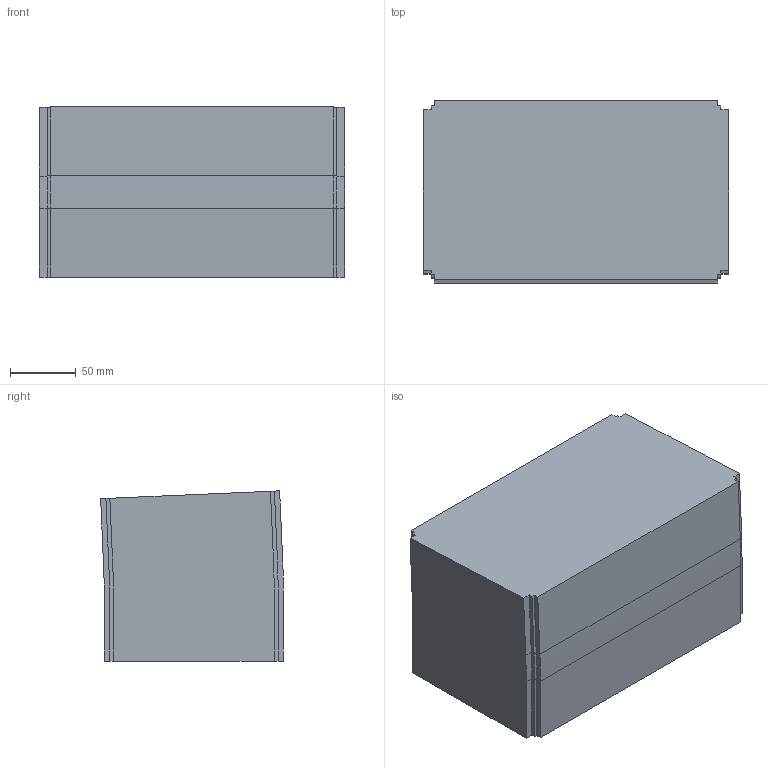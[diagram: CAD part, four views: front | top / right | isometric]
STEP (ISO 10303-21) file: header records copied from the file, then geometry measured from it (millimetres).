
FILE_DESCRIPTION (( 'STEP AP214' ), '1' );
FILE_NAME ('FS-MTC2-150-INOX verticaalbocht.230 2,5°.STEP', '2017-02-08T12:41:50', ( '' ), ( '' ), 'SwSTEP 2.0', 'SolidWorks 2016', '' );
FILE_SCHEMA (( 'AUTOMOTIVE_DESIGN' ));
Length unit declared in the file: millimetre
Products named in the file (1): FS-MTC2-150-INOX verticaalbocht.230 2,5°
Bounding box: 232.5 x 139.2 x 129.74 mm (x, y, z)
Volume: 3998711.8 mm3; surface area: 156653.6 mm2
Topology: 1 solids, 1 shells, 42 faces, 120 edges, 80 vertices
Faces by surface type: plane 32, cylinder 10
Entity records: 1398 total; most frequent: CARTESIAN_POINT 243, ORIENTED_EDGE 240, DIRECTION 226, EDGE_CURVE 120, VECTOR 100, LINE 100, VERTEX_POINT 80, AXIS2_PLACEMENT_3D 63
